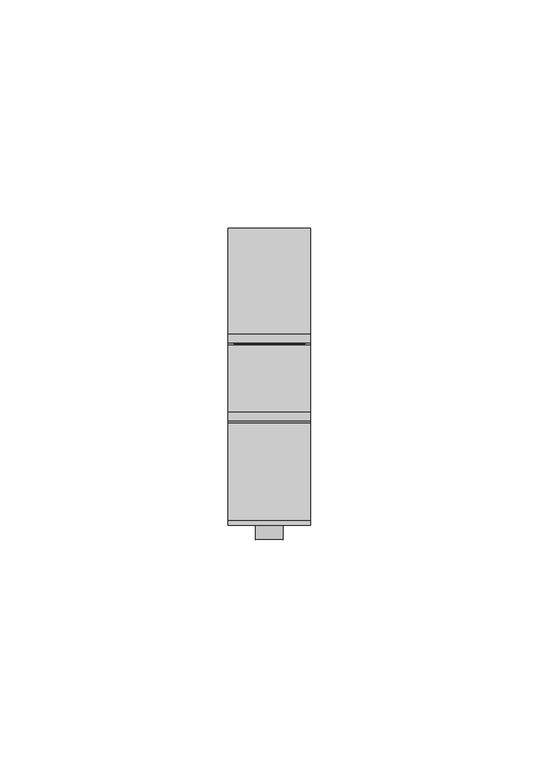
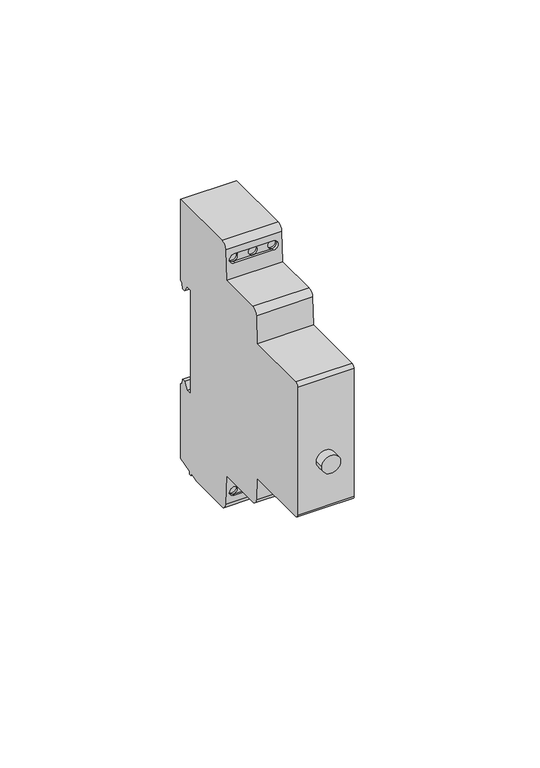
"""IFC4 building model written with IfcOpenShell, lengths in millimetres: proxy geometry, TDM_РЕЛЕ ВРЕМЕНИ НА DIN-РЕЙКУ СЕРИИ РВО1_РВО2_РВО3_РВО4_РВО5 : РВО2 0.6с/60сек 8А 24/230 AC/DC."""

from ifc_helpers import new_model, si_unit, point, frame, frame_2d, origin, place, context, project, spatial, polyline, circle_curve, ellipse_curve, trimmed, segment, composite_curve, outline, extrude, source, transform, mapped, element, save
from ifc_brep_helpers import plane_surface, cylinder_surface, revolved_surface, advanced_brep


def electrical_equipment_126dbba9(model_context):
    return source(origin(), model_context, "Body", "SolidModel", [
        extrude(outline(composite_curve([segment(trimmed(circle_curve(frame_2d((-6.5006041, 0.0)), 3.0), [point((-6.5006041, -3.0))], [point((-6.5006041, 3.0))], False, "CARTESIAN"), True, "CONTINUOUS"), segment(trimmed(circle_curve(frame_2d((-6.5006041, 0.0)), 3.0), [point((-6.5006041, 3.0))], [point((-6.5006041, -3.0))], False, "CARTESIAN"), True, "CONTINUOUS")], self_intersect=False)), frame((0.0, -30.5593993, 0.0), z_axis=(0.0, 1.0, 0.0), x_axis=(0.0, 0.0, 1.0)), (0.0, 0.0, 1.0), 3.0593993),
        extrude(outline(polyline([(7.75, 16.6821204), (7.75, 14.1138713), (-7.75, 14.1138713), (-7.75, 16.6821204), (7.75, 16.6821204)])), frame((0.0, 0.0, -44.0625), z_axis=(0.0, 0.0, 1.0), x_axis=(1.0, 0.0, 0.0)), (0.0, 0.0, 1.0), 87.8126081),
        advanced_brep(
        [(9.0, 31.7632568, 17.7057143), (9.0, 33.7632568, 17.7057143), (9.0, 35.0790621, 15.4266726), (9.0, 36.2042493, 15.4266726), (9.0, 36.5256071, 17.2491835), (9.0, 37.5, 17.8117495), (9.0, 37.5, 45.0), (9.0, 14.5, 45.0), (9.0, 12.5, 43.0), (9.0, 11.9790691, 33.0600462), (9.0, -2.6020709, 33.0600462), (9.0, -4.5993299, 31.1647181), (9.0, -5.0796325, 22.0), (9.0, -26.3777313, 22.0), (9.0, -27.5, 20.8777313), (9.0, -27.5, -22.3875602), (9.0, -26.3875602, -23.5), (9.0, -5.0010208, -23.5), (9.0, -4.5993299, -31.1647181), (9.0, -2.6020709, -33.0600462), (9.0, 11.9790691, -33.0600462), (9.0, 12.5, -43.0), (9.0, 14.5, -45.0), (9.0, 28.5548029, -45.0), (9.0, 31.6319498, -44.175481), (9.0, 31.6319498, -45.0), (9.0, 32.5, -45.0), (9.0, 32.5, -43.9428876), (9.0, 37.5, -42.6031417), (9.0, 37.5, -17.4003208), (9.0, 36.5256071, -16.8377548), (9.0, 36.2042493, -15.0152439), (9.0, 35.0790621, -15.0152439), (9.0, 33.7632568, -17.2942857), (9.0, 31.7632568, -17.2942857), (-9.0, 31.7632568, 17.7057143), (-9.0, 31.7632568, -17.2942857), (-9.0, 33.7632568, -17.2942857), (-9.0, 35.0790621, -15.0152439), (-9.0, 36.2042493, -15.0152439), (-9.0, 36.5256071, -16.8377548), (-9.0, 37.5, -17.4003208), (-9.0, 37.5, -42.6031417), (-9.0, 32.5, -43.9428876), (-9.0, 32.5, -45.0), (-9.0, 31.6319498, -45.0), (-9.0, 31.6319498, -44.175481), (-9.0, 28.5548029, -45.0), (-9.0, 14.5, -45.0), (-9.0, 12.5, -43.0), (-9.0, 11.9790691, -33.0600462), (-9.0, -2.6020709, -33.0600462), (-9.0, -4.5993299, -31.1647181), (-9.0, -5.0010208, -23.5), (-9.0, -26.3875602, -23.5), (-9.0, -27.5, -22.3875602), (-9.0, -27.5, 20.8777313), (-9.0, -26.3777313, 22.0), (-9.0, -5.0796325, 22.0), (-9.0, -4.5993299, 31.1647181), (-9.0, -2.6020709, 33.0600462), (-9.0, 11.9790691, 33.0600462), (-9.0, 12.5, 43.0), (-9.0, 14.5, 45.0), (-9.0, 37.5, 45.0), (-9.0, 37.5, 17.8117495), (-9.0, 36.5256071, 17.2491835), (-9.0, 36.2042493, 15.4266726), (-9.0, 35.0790621, 15.4266726), (-9.0, 33.7632568, 17.7057143), (6.25, 13.0378948, -37.8135116), (0.0239013, 13.0378948, -37.8135116), (1.5239013, 13.0378948, -39.3135116), (0.0239013, 13.0378948, -40.8135116), (6.25, 13.0378948, -40.8135116), (4.75, 13.0378948, -39.3135116), (-6.25, 13.0378948, -37.8135116), (-4.75, 13.0378948, -39.3135116), (-6.25, 13.0378948, -40.8135116), (-1.4760987, 13.0378948, -39.3135116), (6.25, 13.0378948, 40.8135116), (0.0239013, 13.0378948, 40.8135116), (1.5239013, 13.0378948, 39.3135116), (0.0239013, 13.0378948, 37.8135116), (6.25, 13.0378948, 37.8135116), (4.75, 13.0378948, 39.3135116), (-6.25, 13.0378948, 40.8135116), (-4.75, 13.0378948, 39.3135116), (-6.25, 13.0378948, 37.8135116), (-1.4760987, 13.0378948, 39.3135116), (6.25, 12.2281877, 37.8135116), (0.0239013, 12.2281877, 37.8135116), (-6.25, 12.2281877, 37.8135116), (-7.75, 12.3067993, 39.3135116), (-6.25, 12.385411, 40.8135116), (0.0239013, 12.385411, 40.8135116), (6.25, 12.385411, 40.8135116), (7.75, 12.3067993, 39.3135116), (0.0239013, 12.2281877, -37.8135116), (6.25, 12.2281877, -37.8135116), (7.75, 12.3067993, -39.3135116), (6.25, 12.385411, -40.8135116), (0.0239013, 12.385411, -40.8135116), (-6.25, 12.385411, -40.8135116), (-7.75, 12.3067993, -39.3135116), (-6.25, 12.2281877, -37.8135116), (-7.75, 13.0378948, -39.3135116), (7.75, 13.0378948, -39.3135116), (7.75, 13.0378948, 39.3135116), (-7.75, 13.0378948, 39.3135116), (-4.75, 15.2465164, -39.3135116), (-7.75, 15.2465164, -39.3135116), (1.5239013, 15.2465164, -39.3135116), (-1.4760987, 15.2465164, -39.3135116), (4.75, 15.2465164, -39.3135116), (7.75, 15.2465164, -39.3135116), (-4.75, 15.2465164, 39.3135116), (-7.75, 15.2465164, 39.3135116), (1.5239013, 15.2465164, 39.3135116), (-1.4760987, 15.2465164, 39.3135116), (4.75, 15.2465164, 39.3135116), (7.75, 15.2465164, 39.3135116)],
        [
            (0, 1),
            (1, 2),
            (2, 3),
            (3, 4),
            (4, 5),
            (5, 6),
            (6, 7),
            (7, 8, circle_curve(frame((9.0, 14.5, 43.0), z_axis=(1.0, 0.0, 0.0), x_axis=(0.0, -1.0, 0.0)), 2.0)),
            (8, 9),
            (9, 10),
            (10, 11, circle_curve(frame((9.0, -2.6020709, 31.0600462), z_axis=(1.0, 0.0, 0.0), x_axis=(0.0, -1.0, 0.0)), 2.0)),
            (11, 12),
            (12, 13),
            (13, 14, circle_curve(frame((9.0, -26.3777313, 20.8777313), z_axis=(1.0, 0.0, 0.0), x_axis=(0.0, -1.0, 0.0)), 1.1222687)),
            (14, 15),
            (15, 16, circle_curve(frame((9.0, -26.3875602, -22.3875602), z_axis=(1.0, 0.0, 0.0), x_axis=(0.0, -1.0, 0.0)), 1.1124398)),
            (16, 17),
            (17, 18),
            (18, 19, circle_curve(frame((9.0, -2.6020709, -31.0600462), z_axis=(1.0, 0.0, 0.0), x_axis=(0.0, -1.0, 0.0)), 2.0)),
            (19, 20),
            (20, 21),
            (21, 22, circle_curve(frame((9.0, 14.5, -43.0), z_axis=(1.0, 0.0, 0.0), x_axis=(0.0, -1.0, 0.0)), 2.0)),
            (22, 23),
            (23, 24),
            (24, 25),
            (25, 26),
            (26, 27),
            (27, 28),
            (28, 29),
            (29, 30),
            (30, 31),
            (31, 32),
            (32, 33),
            (33, 34),
            (34, 0),
            (35, 36),
            (36, 37),
            (37, 38),
            (38, 39),
            (39, 40),
            (40, 41),
            (41, 42),
            (42, 43),
            (43, 44),
            (44, 45),
            (45, 46),
            (46, 47),
            (47, 48),
            (48, 49, circle_curve(frame((-9.0, 14.5, -43.0), z_axis=(-1.0, 0.0, 0.0), x_axis=(0.0, -1.0, 0.0)), 2.0)),
            (49, 50),
            (50, 51),
            (51, 52, circle_curve(frame((-9.0, -2.6020709, -31.0600462), z_axis=(-1.0, 0.0, 0.0), x_axis=(0.0, -1.0, 0.0)), 2.0)),
            (52, 53),
            (53, 54),
            (54, 55, circle_curve(frame((-9.0, -26.3875602, -22.3875602), z_axis=(-1.0, 0.0, 0.0), x_axis=(0.0, -1.0, 0.0)), 1.1124398)),
            (55, 56),
            (56, 57, circle_curve(frame((-9.0, -26.3777313, 20.8777313), z_axis=(-1.0, 0.0, 0.0), x_axis=(0.0, -1.0, 0.0)), 1.1222687)),
            (57, 58),
            (58, 59),
            (59, 60, circle_curve(frame((-9.0, -2.6020709, 31.0600462), z_axis=(-1.0, 0.0, 0.0), x_axis=(0.0, -1.0, 0.0)), 2.0)),
            (60, 61),
            (61, 62),
            (62, 63, circle_curve(frame((-9.0, 14.5, 43.0), z_axis=(-1.0, 0.0, 0.0), x_axis=(0.0, -1.0, 0.0)), 2.0)),
            (63, 64),
            (64, 65),
            (65, 66),
            (66, 67),
            (67, 68),
            (68, 69),
            (69, 35),
            (70, 71),
            (71, 72, circle_curve(frame((0.0239013, 13.0378948, -39.3135116), z_axis=(0.0, 1.0, 0.0), x_axis=(-1.0, 0.0, 0.0)), 1.5)),
            (72, 73, circle_curve(frame((0.0239013, 13.0378948, -39.3135116), z_axis=(0.0, 1.0, 0.0), x_axis=(-1.0, 0.0, 0.0)), 1.5)),
            (73, 74),
            (74, 75, circle_curve(frame((6.25, 13.0378948, -39.3135116), z_axis=(0.0, 1.0, 0.0), x_axis=(1.0, 0.0, 0.0)), 1.5)),
            (75, 70, circle_curve(frame((6.25, 13.0378948, -39.3135116), z_axis=(0.0, 1.0, 0.0), x_axis=(1.0, 0.0, 0.0)), 1.5)),
            (71, 76),
            (76, 77, circle_curve(frame((-6.25, 13.0378948, -39.3135116), z_axis=(0.0, 1.0, 0.0), x_axis=(-1.0, 0.0, 0.0)), 1.5)),
            (77, 78, circle_curve(frame((-6.25, 13.0378948, -39.3135116), z_axis=(0.0, 1.0, 0.0), x_axis=(-1.0, 0.0, 0.0)), 1.5)),
            (78, 73),
            (73, 79, circle_curve(frame((0.0239013, 13.0378948, -39.3135116), z_axis=(0.0, 1.0, 0.0), x_axis=(-1.0, 0.0, 0.0)), 1.5)),
            (79, 71, circle_curve(frame((0.0239013, 13.0378948, -39.3135116), z_axis=(0.0, 1.0, 0.0), x_axis=(-1.0, 0.0, 0.0)), 1.5)),
            (80, 81),
            (81, 82, circle_curve(frame((0.0239013, 13.0378948, 39.3135116), z_axis=(0.0, 1.0, 0.0), x_axis=(-1.0, 0.0, 0.0)), 1.5)),
            (82, 83, circle_curve(frame((0.0239013, 13.0378948, 39.3135116), z_axis=(0.0, 1.0, 0.0), x_axis=(-1.0, 0.0, 0.0)), 1.5)),
            (83, 84),
            (84, 85, circle_curve(frame((6.25, 13.0378948, 39.3135116), z_axis=(0.0, 1.0, 0.0), x_axis=(1.0, 0.0, 0.0)), 1.5)),
            (85, 80, circle_curve(frame((6.25, 13.0378948, 39.3135116), z_axis=(0.0, 1.0, 0.0), x_axis=(1.0, 0.0, 0.0)), 1.5)),
            (81, 86),
            (86, 87, circle_curve(frame((-6.25, 13.0378948, 39.3135116), z_axis=(0.0, 1.0, 0.0), x_axis=(-1.0, 0.0, 0.0)), 1.5)),
            (87, 88, circle_curve(frame((-6.25, 13.0378948, 39.3135116), z_axis=(0.0, 1.0, 0.0), x_axis=(-1.0, 0.0, 0.0)), 1.5)),
            (88, 83),
            (83, 89, circle_curve(frame((0.0239013, 13.0378948, 39.3135116), z_axis=(0.0, 1.0, 0.0), x_axis=(-1.0, 0.0, 0.0)), 1.5)),
            (89, 81, circle_curve(frame((0.0239013, 13.0378948, 39.3135116), z_axis=(0.0, 1.0, 0.0), x_axis=(-1.0, 0.0, 0.0)), 1.5)),
            (0, 35),
            (69, 1),
            (68, 2),
            (67, 3),
            (66, 4),
            (65, 5),
            (64, 6),
            (63, 7),
            (62, 8),
            (61, 9),
            (90, 91),
            (91, 92),
            (92, 93, ellipse_curve(frame((-6.25, 12.3067993, 39.3135116), z_axis=(0.0, 0.9986295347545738, -0.052335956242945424), x_axis=(0.0, -0.052335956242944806, -0.9986295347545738)), 1.5020585, 1.5)),
            (93, 94, ellipse_curve(frame((-6.25, 12.3067993, 39.3135116), z_axis=(0.0, 0.9986295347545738, -0.052335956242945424), x_axis=(0.0, -0.052335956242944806, -0.9986295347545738)), 1.5020585, 1.5)),
            (94, 95),
            (95, 96),
            (96, 97, ellipse_curve(frame((6.25, 12.3067993, 39.3135116), z_axis=(0.0, 0.9986295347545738, -0.052335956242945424), x_axis=(0.0, -0.052335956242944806, -0.9986295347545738)), 1.5020585, 1.5)),
            (97, 90, ellipse_curve(frame((6.25, 12.3067993, 39.3135116), z_axis=(0.0, 0.9986295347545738, -0.052335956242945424), x_axis=(0.0, -0.052335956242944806, -0.9986295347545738)), 1.5020585, 1.5)),
            (60, 10),
            (59, 11),
            (58, 12),
            (57, 13),
            (56, 14),
            (55, 15),
            (16, 54),
            (53, 17),
            (52, 18),
            (51, 19),
            (50, 20),
            (49, 21),
            (98, 99),
            (99, 100, ellipse_curve(frame((6.25, 12.3067993, -39.3135116), z_axis=(0.0, 0.9986295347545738, 0.05233595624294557), x_axis=(0.0, -0.05233595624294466, 0.9986295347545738)), 1.5020585, 1.5)),
            (100, 101, ellipse_curve(frame((6.25, 12.3067993, -39.3135116), z_axis=(0.0, 0.9986295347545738, 0.05233595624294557), x_axis=(0.0, -0.05233595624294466, 0.9986295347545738)), 1.5020585, 1.5)),
            (101, 102),
            (102, 103),
            (103, 104, ellipse_curve(frame((-6.25, 12.3067993, -39.3135116), z_axis=(0.0, 0.9986295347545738, 0.05233595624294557), x_axis=(0.0, -0.05233595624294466, 0.9986295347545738)), 1.5020585, 1.5)),
            (104, 105, ellipse_curve(frame((-6.25, 12.3067993, -39.3135116), z_axis=(0.0, 0.9986295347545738, 0.05233595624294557), x_axis=(0.0, -0.05233595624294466, 0.9986295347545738)), 1.5020585, 1.5)),
            (105, 98),
            (48, 22),
            (47, 23),
            (25, 45),
            (44, 26),
            (43, 27),
            (46, 24),
            (28, 42),
            (41, 29),
            (40, 30),
            (39, 31),
            (38, 32),
            (37, 33),
            (36, 34),
            (70, 99),
            (105, 76),
            (103, 78),
            (78, 106, circle_curve(frame((-6.25, 13.0378948, -39.3135116), z_axis=(0.0, 1.0, 0.0), x_axis=(-1.0, 0.0, 0.0)), 1.5)),
            (106, 76, circle_curve(frame((-6.25, 13.0378948, -39.3135116), z_axis=(0.0, 1.0, 0.0), x_axis=(-1.0, 0.0, 0.0)), 1.5)),
            (101, 74),
            (70, 107, circle_curve(frame((6.25, 13.0378948, -39.3135116), z_axis=(0.0, 1.0, 0.0), x_axis=(1.0, 0.0, 0.0)), 1.5)),
            (107, 74, circle_curve(frame((6.25, 13.0378948, -39.3135116), z_axis=(0.0, 1.0, 0.0), x_axis=(1.0, 0.0, 0.0)), 1.5)),
            (84, 90),
            (96, 80),
            (80, 108, circle_curve(frame((6.25, 13.0378948, 39.3135116), z_axis=(0.0, 1.0, 0.0), x_axis=(1.0, 0.0, 0.0)), 1.5)),
            (108, 84, circle_curve(frame((6.25, 13.0378948, 39.3135116), z_axis=(0.0, 1.0, 0.0), x_axis=(1.0, 0.0, 0.0)), 1.5)),
            (94, 86),
            (92, 88),
            (88, 109, circle_curve(frame((-6.25, 13.0378948, 39.3135116), z_axis=(0.0, 1.0, 0.0), x_axis=(-1.0, 0.0, 0.0)), 1.5)),
            (109, 86, circle_curve(frame((-6.25, 13.0378948, 39.3135116), z_axis=(0.0, 1.0, 0.0), x_axis=(-1.0, 0.0, 0.0)), 1.5)),
            (110, 111, circle_curve(frame((-6.25, 15.2465164, -39.3135116), z_axis=(0.0, -1.0, 0.0), x_axis=(-1.0, 0.0, 0.0)), 1.5)),
            (111, 110, circle_curve(frame((-6.25, 15.2465164, -39.3135116), z_axis=(0.0, -1.0, 0.0), x_axis=(-1.0, 0.0, 0.0)), 1.5)),
            (112, 113, circle_curve(frame((0.0239013, 15.2465164, -39.3135116), z_axis=(0.0, -1.0, 0.0), x_axis=(-1.0, 0.0, 0.0)), 1.5)),
            (113, 112, circle_curve(frame((0.0239013, 15.2465164, -39.3135116), z_axis=(0.0, -1.0, 0.0), x_axis=(-1.0, 0.0, 0.0)), 1.5)),
            (114, 115, circle_curve(frame((6.25, 15.2465164, -39.3135116), z_axis=(0.0, -1.0, 0.0), x_axis=(1.0, 0.0, 0.0)), 1.5)),
            (115, 114, circle_curve(frame((6.25, 15.2465164, -39.3135116), z_axis=(0.0, -1.0, 0.0), x_axis=(1.0, 0.0, 0.0)), 1.5)),
            (116, 117, circle_curve(frame((-6.25, 15.2465164, 39.3135116), z_axis=(0.0, -1.0, 0.0), x_axis=(-1.0, 0.0, 0.0)), 1.5)),
            (117, 116, circle_curve(frame((-6.25, 15.2465164, 39.3135116), z_axis=(0.0, -1.0, 0.0), x_axis=(-1.0, 0.0, 0.0)), 1.5)),
            (118, 119, circle_curve(frame((0.0239013, 15.2465164, 39.3135116), z_axis=(0.0, -1.0, 0.0), x_axis=(-1.0, 0.0, 0.0)), 1.5)),
            (119, 118, circle_curve(frame((0.0239013, 15.2465164, 39.3135116), z_axis=(0.0, -1.0, 0.0), x_axis=(-1.0, 0.0, 0.0)), 1.5)),
            (120, 121, circle_curve(frame((6.25, 15.2465164, 39.3135116), z_axis=(0.0, -1.0, 0.0), x_axis=(1.0, 0.0, 0.0)), 1.5)),
            (121, 120, circle_curve(frame((6.25, 15.2465164, 39.3135116), z_axis=(0.0, -1.0, 0.0), x_axis=(1.0, 0.0, 0.0)), 1.5)),
            (110, 77),
            (106, 111),
            (112, 72),
            (79, 113),
            (114, 75),
            (107, 115),
            (116, 87),
            (109, 117),
            (118, 82),
            (89, 119),
            (120, 85),
            (108, 121),
        ],
        [
            plane_surface(frame((9.0, 31.7632568, 17.7057143), z_axis=(1.0, 0.0, 0.0), x_axis=(0.0, 1.0, 0.0))),
            plane_surface(frame((-9.0, 31.7632568, 17.7057143), z_axis=(-1.0, 0.0, 0.0), x_axis=(0.0, -1.0, 0.0))),
            plane_surface(frame((-7.75, 13.0378948, -37.8135116), z_axis=(0.0, -1.0, 0.0), x_axis=(1.0, 0.0, 0.0))),
            plane_surface(frame((9.0, 31.7632568, 17.7057143), z_axis=(0.0, 0.0, -1.0), x_axis=(-1.0, 0.0, 0.0))),
            plane_surface(frame((9.0, 33.7632568, 17.7057143), z_axis=(0.0, -0.8660254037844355, -0.5000000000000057), x_axis=(-1.0, 0.0, 0.0))),
            plane_surface(frame((9.0, 35.0790621, 15.4266726), z_axis=(0.0, 0.0, -1.0), x_axis=(-1.0, 0.0, 0.0))),
            plane_surface(frame((9.0, 36.2042493, 15.4266726), z_axis=(0.0, 0.984807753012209, -0.17364817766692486), x_axis=(-1.0, 0.0, 0.0))),
            plane_surface(frame((9.0, 36.5256071, 17.2491835), z_axis=(0.0, 0.5000000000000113, -0.8660254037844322), x_axis=(-1.0, 0.0, 0.0))),
            plane_surface(frame((9.0, 37.5, 17.8117495), z_axis=(0.0, 1.0, 0.0), x_axis=(-1.0, 0.0, 0.0))),
            plane_surface(frame((9.0, 37.5, 45.0), z_axis=(0.0, 0.0, 1.0), x_axis=(-1.0, 0.0, 0.0))),
            cylinder_surface(frame((-9.0, 14.5, 43.0), z_axis=(1.0, 0.0, 0.0), x_axis=(0.0, -1.0, 0.0)), 2.0),
            plane_surface(frame((9.0, 12.5, 43.0), z_axis=(0.0, -0.9986295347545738, 0.052335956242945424), x_axis=(-1.0, 0.0, 0.0))),
            plane_surface(frame((9.0, 11.9790691, 33.0600462), z_axis=(0.0, 0.0, 1.0), x_axis=(-1.0, 0.0, 0.0))),
            cylinder_surface(frame((-9.0, -2.6020709, 31.0600462), z_axis=(1.0, 0.0, 0.0), x_axis=(0.0, -1.0, 0.0)), 2.0),
            plane_surface(frame((9.0, -4.5993299, 31.1647181), z_axis=(0.0, -0.9986295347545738, 0.052335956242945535), x_axis=(-1.0, 0.0, 0.0))),
            plane_surface(frame((9.0, -5.0796325, 22.0), z_axis=(0.0, 0.0, 1.0), x_axis=(-1.0, 0.0, 0.0))),
            cylinder_surface(frame((-9.0, -26.3777313, 20.8777313), z_axis=(1.0, 0.0, 0.0), x_axis=(0.0, -1.0, 0.0)), 1.1222687),
            plane_surface(frame((9.0, -27.5, 20.8777313), z_axis=(0.0, -1.0, 0.0), x_axis=(-1.0, 0.0, 0.0))),
            plane_surface(frame((9.0, -26.3875602, -23.5), z_axis=(0.0, 0.0, -1.0), x_axis=(-1.0, 0.0, 0.0))),
            plane_surface(frame((9.0, -5.0010208, -23.5), z_axis=(0.0, -0.9986295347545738, -0.05233595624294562), x_axis=(-1.0, 0.0, 0.0))),
            cylinder_surface(frame((-9.0, -2.6020709, -31.0600462), z_axis=(1.0, 0.0, 0.0), x_axis=(0.0, -1.0, 0.0)), 2.0),
            plane_surface(frame((9.0, -2.6020709, -33.0600462), z_axis=(0.0, 0.0, -1.0), x_axis=(-1.0, 0.0, 0.0))),
            plane_surface(frame((9.0, 11.9790691, -33.0600462), z_axis=(0.0, -0.9986295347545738, -0.05233595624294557), x_axis=(-1.0, 0.0, 0.0))),
            cylinder_surface(frame((-9.0, 14.5, -43.0), z_axis=(1.0, 0.0, 0.0), x_axis=(0.0, -1.0, 0.0)), 2.0),
            plane_surface(frame((9.0, 14.5, -45.0), z_axis=(0.0, 0.0, -1.0), x_axis=(-1.0, 0.0, 0.0))),
            plane_surface(frame((9.0, 31.6319498, -45.0), z_axis=(0.0, 0.0, -1.0), x_axis=(-1.0, 0.0, 0.0))),
            plane_surface(frame((9.0, 32.5, -45.0), z_axis=(0.0, 1.0, 0.0), x_axis=(-1.0, 0.0, 0.0))),
            plane_surface(frame((9.0, 28.5548029, -45.0), z_axis=(0.0, 0.2588190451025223, -0.965925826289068), x_axis=(-1.0, 0.0, 0.0))),
            plane_surface(frame((9.0, 37.5, -42.6031417), z_axis=(0.0, 1.0, 0.0), x_axis=(-1.0, 0.0, 0.0))),
            plane_surface(frame((9.0, 37.5, -17.4003208), z_axis=(0.0, 0.5000000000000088, 0.8660254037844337), x_axis=(-1.0, 0.0, 0.0))),
            plane_surface(frame((9.0, 36.5256071, -16.8377548), z_axis=(0.0, 0.9848077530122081, 0.17364817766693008), x_axis=(-1.0, 0.0, 0.0))),
            plane_surface(frame((9.0, 36.2042493, -15.0152439), z_axis=(0.0, 0.0, 1.0), x_axis=(-1.0, 0.0, 0.0))),
            plane_surface(frame((9.0, 35.0790621, -15.0152439), z_axis=(0.0, -0.8660254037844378, 0.5000000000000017), x_axis=(-1.0, 0.0, 0.0))),
            plane_surface(frame((9.0, 33.7632568, -17.2942857), z_axis=(0.0, 0.0, 1.0), x_axis=(-1.0, 0.0, 0.0))),
            plane_surface(frame((9.0, 31.7632568, -17.2942857), z_axis=(0.0, 1.0, 0.0), x_axis=(-1.0, 0.0, 0.0))),
            cylinder_surface(frame((-9.0, -26.3875602, -22.3875602), z_axis=(1.0, 0.0, 0.0), x_axis=(0.0, -1.0, 0.0)), 1.1124398),
            plane_surface(frame((6.25, 0.0, -37.8135116), z_axis=(0.0, 0.0, -1.0), x_axis=(0.0, 1.0, 0.0))),
            revolved_surface(polyline([(-7.75, 12.228187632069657, -39.3135116), (-7.75, 13.0378948, -39.3135116)]), (-6.25, 13.0378948, -39.3135116), (0.0, -1.0, 0.0)),
            plane_surface(frame((-6.25, 0.0, -40.8135116), z_axis=(0.0, 0.0, 1.0), x_axis=(0.0, 1.0, 0.0))),
            revolved_surface(polyline([(7.75, 12.228187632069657, -39.3135116), (7.75, 13.0378948, -39.3135116)]), (6.25, 13.0378948, -39.3135116), (0.0, -1.0, 0.0)),
            revolved_surface(polyline([(7.75, 12.228187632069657, 39.3135116), (7.75, 13.0378948, 39.3135116)]), (6.25, 0.0, 39.3135116), (0.0, -1.0, 0.0)),
            plane_surface(frame((6.25, 0.0, 40.8135116), z_axis=(0.0, 0.0, -1.0), x_axis=(0.0, 1.0, 0.0))),
            revolved_surface(polyline([(-7.75, 12.228187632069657, 39.3135116), (-7.75, 13.0378948, 39.3135116)]), (-6.25, 0.0, 39.3135116), (0.0, -1.0, 0.0)),
            plane_surface(frame((-6.25, 0.0, 37.8135116), z_axis=(0.0, 0.0, 1.0), x_axis=(0.0, 1.0, 0.0))),
            plane_surface(frame((-7.75, 15.2465164, -39.3135116), z_axis=(0.0, -1.0, 0.0), x_axis=(0.0, 0.0, 1.0))),
            revolved_surface(polyline([(-7.75, 13.0378948, -39.3135116), (-7.75, 15.2465164, -39.3135116)]), (-6.25, 15.2465164, -39.3135116), (0.0, -1.0, 0.0)),
            revolved_surface(polyline([(-1.4760987, 13.0378948, -39.3135116), (-1.4760987, 15.2465164, -39.3135116)]), (0.0239013, 0.0, -39.3135116), (0.0, -1.0, 0.0)),
            revolved_surface(polyline([(7.75, 13.0378948, -39.3135116), (7.75, 15.2465164, -39.3135116)]), (6.25, 0.0, -39.3135116), (0.0, -1.0, 0.0)),
            revolved_surface(polyline([(-7.75, 13.0378948, 39.3135116), (-7.75, 15.2465164, 39.3135116)]), (-6.25, 0.0, 39.3135116), (0.0, -1.0, 0.0)),
            revolved_surface(polyline([(-1.4760987, 13.0378948, 39.3135116), (-1.4760987, 15.2465164, 39.3135116)]), (0.0239013, 0.0, 39.3135116), (0.0, -1.0, 0.0)),
            revolved_surface(polyline([(7.75, 13.0378948, 39.3135116), (7.75, 15.2465164, 39.3135116)]), (6.25, 0.0, 39.3135116), (0.0, -1.0, 0.0)),
            plane_surface(frame((9.0, 31.6319498, -44.175481), z_axis=(0.0, -1.0, 0.0), x_axis=(-1.0, 0.0, 0.0))),
            plane_surface(frame((9.0, 32.5, -43.9428876), z_axis=(0.0, 0.2588190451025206, -0.9659258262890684), x_axis=(-1.0, 0.0, 0.0))),
        ],
        [
            (0, [[1, 2, 3, 4, 5, 6, 7, 8, 9, 10, 11, 12, 13, 14, 15, 16, 17, 18, 19, 20, 21, 22, 23, 24, 25, 26, 27, 28, 29, 30, 31, 32, 33, 34, 35]]),
            (1, [[36, 37, 38, 39, 40, 41, 42, 43, 44, 45, 46, 47, 48, 49, 50, 51, 52, 53, 54, 55, 56, 57, 58, 59, 60, 61, 62, 63, 64, 65, 66, 67, 68, 69, 70]]),
            (2, [[71, 72, 73, 74, 75, 76]]),
            (2, [[77, 78, 79, 80, 81, 82]]),
            (2, [[83, 84, 85, 86, 87, 88]]),
            (2, [[89, 90, 91, 92, 93, 94]]),
            (3, [[-1, 95, -70, 96]]),
            (4, [[-2, -96, -69, 97]]),
            (5, [[-3, -97, -68, 98]]),
            (6, [[-4, -98, -67, 99]]),
            (7, [[-5, -99, -66, 100]]),
            (8, [[-6, -100, -65, 101]]),
            (9, [[-7, -101, -64, 102]]),
            (10, [[-8, -102, -63, 103]]),
            (11, [[-9, -103, -62, 104], [105, 106, 107, 108, 109, 110, 111, 112]]),
            (12, [[-10, -104, -61, 113]]),
            (13, [[-11, -113, -60, 114]]),
            (14, [[-12, -114, -59, 115]]),
            (15, [[-13, -115, -58, 116]]),
            (16, [[-14, -116, -57, 117]]),
            (17, [[-15, -117, -56, 118]]),
            (18, [[-17, 119, -54, 120]]),
            (19, [[-18, -120, -53, 121]]),
            (20, [[-19, -121, -52, 122]]),
            (21, [[-20, -122, -51, 123]]),
            (22, [[-21, -123, -50, 124], [125, 126, 127, 128, 129, 130, 131, 132]]),
            (23, [[-22, -124, -49, 133]]),
            (24, [[-23, -133, -48, 134]]),
            (25, [[-26, 135, -45, 136]]),
            (26, [[-27, -136, -44, 137]]),
            (27, [[-24, -134, -47, 138]]),
            (28, [[-29, 139, -42, 140]]),
            (29, [[-30, -140, -41, 141]]),
            (30, [[-31, -141, -40, 142]]),
            (31, [[-32, -142, -39, 143]]),
            (32, [[-33, -143, -38, 144]]),
            (33, [[-34, -144, -37, 145]]),
            (34, [[-35, -145, -36, -95]]),
            (35, [[-16, -118, -55, -119]]),
            (36, [[146, -125, -132, 147, -77, -71]]),
            (37, [[-147, -131, -130, 148, 149, 150]]),
            (38, [[-148, -129, -128, 151, -74, -80]]),
            (39, [[-146, 152, 153, -151, -127, -126]]),
            (40, [[154, -112, -111, 155, 156, 157]]),
            (41, [[-155, -110, -109, 158, -89, -83]]),
            (42, [[-158, -108, -107, 159, 160, 161]]),
            (43, [[-154, -86, -92, -159, -106, -105]]),
            (44, [[162, 163]]),
            (44, [[164, 165]]),
            (44, [[166, 167]]),
            (44, [[168, 169]]),
            (44, [[170, 171]]),
            (44, [[172, 173]]),
            (45, [[-162, 174, -78, -150, 175]]),
            (45, [[-163, -175, -149, -79, -174]]),
            (46, [[-164, 176, -72, -82, 177]]),
            (46, [[-165, -177, -81, -73, -176]]),
            (47, [[-166, 178, -75, -153, 179]]),
            (47, [[-167, -179, -152, -76, -178]]),
            (48, [[-168, 180, -90, -161, 181]]),
            (48, [[-169, -181, -160, -91, -180]]),
            (49, [[-170, 182, -84, -94, 183]]),
            (49, [[-171, -183, -93, -85, -182]]),
            (50, [[-172, 184, -87, -157, 185]]),
            (50, [[-173, -185, -156, -88, -184]]),
            (51, [[-25, -138, -46, -135]]),
            (52, [[-28, -137, -43, -139]]),
        ],
    ),
    ])


if __name__ == "__main__":
    model = new_model("IFC4")
    model_context = context("Model", 3, world=origin())
    ifc_project = project(units=[si_unit("LENGTHUNIT", "METRE", prefix="MILLI")], contexts=[model_context])
    site = spatial("IfcSite", under=ifc_project)
    building = spatial("IfcBuilding", under=site)
    placement = place(None, origin())
    electrical_equipment_shape = electrical_equipment_126dbba9(model_context)
    element("IfcBuildingElementProxy", 1, Name="TDM_РЕЛЕ ВРЕМЕНИ НА DIN-РЕЙКУ СЕРИИ РВО1_РВО2_РВО3_РВО4_РВО5 : РВО2 0.6с/60сек 8А 24/230 AC/DC", ObjectType="TDM_РЕЛЕ ВРЕМЕНИ НА DIN-РЕЙКУ СЕРИИ РВО1_РВО2_РВО3_РВО4_РВО5 : РВО2 0.6с/60сек 8А 24/230 AC/DC", at=placement, inside=building, context=model_context, shape_type="MappedRepresentation", body=[
        mapped(electrical_equipment_shape, transform((0.0, 0.0, 0.0), x_axis=(1.0, 0.0, 0.0), y_axis=(0.0, 1.0, 0.0), z_axis=(0.0, 0.0, 1.0))),
    ])
    save(model, "model.ifc")
